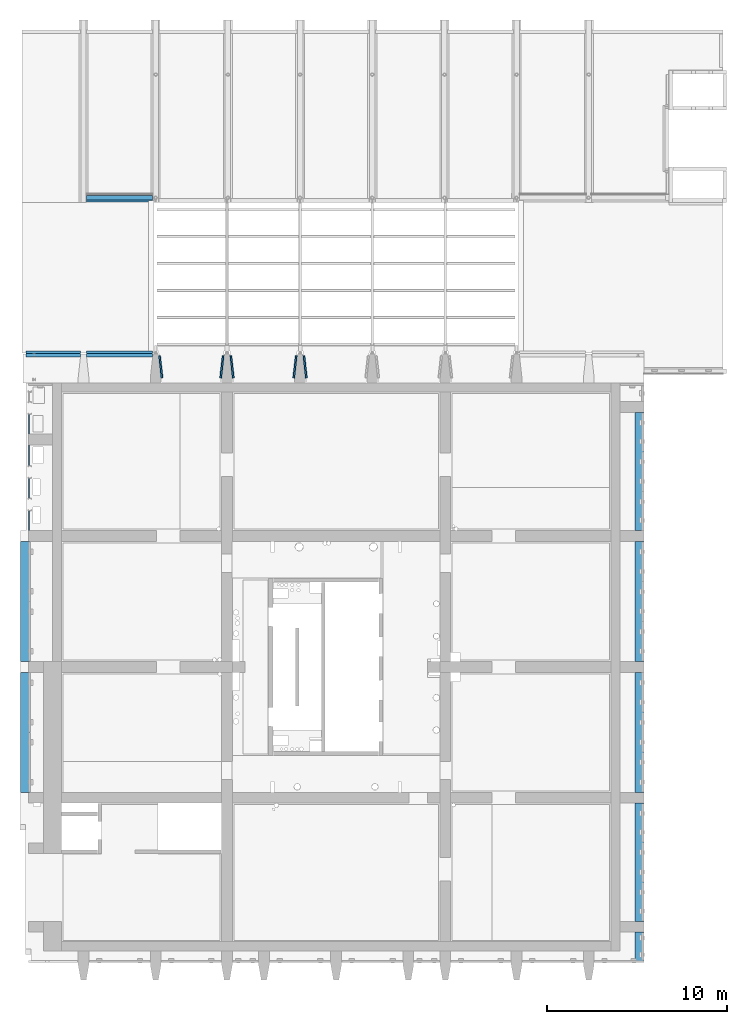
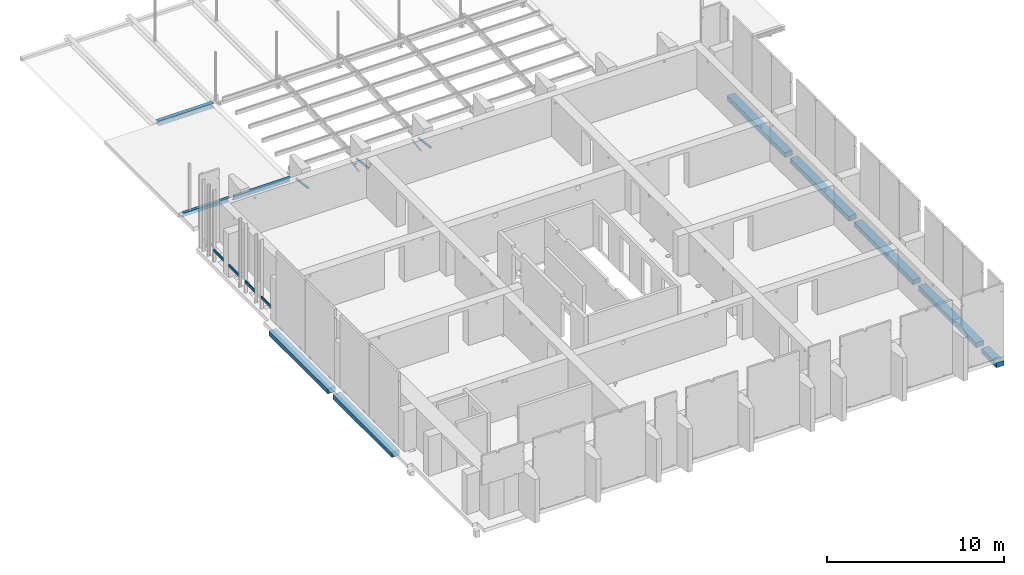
# One storey, part 12 of 31: 14 beams.
"""IFC2X3 building model written with IfcOpenShell, lengths in millimetres."""

from ifc_helpers import new_model, entity, si_unit, converted_unit, derived_unit, direction, frame, frame_2d, origin, origin_2d_with_axis, place, context, subcontext, project, spatial, polyline, circle_curve, parameter, trimmed, segment, composite_curve, rectangle, outline, extrude, source, transform, mapped, material, type_object, type_shapes, element, save


model = new_model("IFC2X3")

# Units and contexts
model_context = context("Model", 3, precision=0.01, world=origin(), true_north=direction((6.12303176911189e-17, 1.0)))
body_context = subcontext(model_context, "Body", "Model", "MODEL_VIEW")
ifc_project = project(units=[si_unit("LENGTHUNIT", "METRE", prefix="MILLI"), si_unit("AREAUNIT", "SQUARE_METRE"), si_unit("VOLUMEUNIT", "CUBIC_METRE"), converted_unit("PLANEANGLEUNIT", "DEGREE", entity("IfcRatioMeasure", 0.0174532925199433), si_unit("PLANEANGLEUNIT", "RADIAN"), dimensions=[0, 0, 0, 0, 0, 0, 0]), si_unit("MASSUNIT", "GRAM", prefix="KILO"), derived_unit("MASSDENSITYUNIT", [(si_unit("MASSUNIT", "GRAM", prefix="KILO"), 1), (si_unit("LENGTHUNIT", "METRE"), -3)]), si_unit("TIMEUNIT", "SECOND"), si_unit("FREQUENCYUNIT", "HERTZ"), si_unit("THERMODYNAMICTEMPERATUREUNIT", "DEGREE_CELSIUS"), derived_unit("THERMALTRANSMITTANCEUNIT", [(si_unit("MASSUNIT", "GRAM", prefix="KILO"), 1), (si_unit("THERMODYNAMICTEMPERATUREUNIT", "KELVIN"), -1), (si_unit("TIMEUNIT", "SECOND"), -3)]), derived_unit("VOLUMETRICFLOWRATEUNIT", [(si_unit("LENGTHUNIT", "METRE"), 3), (si_unit("TIMEUNIT", "SECOND"), -1)]), si_unit("ELECTRICCURRENTUNIT", "AMPERE"), si_unit("ELECTRICVOLTAGEUNIT", "VOLT"), si_unit("POWERUNIT", "WATT"), si_unit("FORCEUNIT", "NEWTON", prefix="KILO"), si_unit("ILLUMINANCEUNIT", "LUX"), si_unit("LUMINOUSFLUXUNIT", "LUMEN"), si_unit("LUMINOUSINTENSITYUNIT", "CANDELA"), derived_unit("USERDEFINED", [(si_unit("MASSUNIT", "GRAM", prefix="KILO"), -1), (si_unit("LENGTHUNIT", "METRE"), -2), (si_unit("TIMEUNIT", "SECOND"), 3), (si_unit("LUMINOUSFLUXUNIT", "LUMEN"), 1)]), derived_unit("LINEARVELOCITYUNIT", [(si_unit("LENGTHUNIT", "METRE"), 1), (si_unit("TIMEUNIT", "SECOND"), -1)]), si_unit("PRESSUREUNIT", "PASCAL"), derived_unit("USERDEFINED", [(si_unit("LENGTHUNIT", "METRE"), -2), (si_unit("MASSUNIT", "GRAM", prefix="KILO"), 1), (si_unit("TIMEUNIT", "SECOND"), -2)])], contexts=[model_context])

# Site, building, storey
site_placement = place(None, origin())
site = spatial("IfcSite", under=ifc_project, at=site_placement, Name="Default", CompositionType="ELEMENT")
building_placement = place(site_placement, origin())
building = spatial("IfcBuilding", under=site, at=building_placement, Name="niet gebruiken", CompositionType="ELEMENT")
storey_placement = place(building_placement, frame((0.0, 0.0, 12000.0)))
storey = spatial("IfcBuildingStorey", under=building, at=storey_placement, Name="03 derde verdieping", CompositionType="ELEMENT", Elevation=12000.0)

# Beams
ifc_material_1 = material(Name="NLRS_f2_beton ihwg")
beam_type_1 = type_object("IfcBeamType", Name="500x600", PredefinedType="BEAM", material=ifc_material_1)
shared_shape_1 = source(origin(), body_context, "Body", "SweptSolid", [
    extrude(rectangle(XDim=6549.99999999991, YDim=500.000000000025, at=frame_2d((-2.27373675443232e-12, 0.0), x_axis=(1.0, 0.0))), frame((158550.0, 28325.0, 11310.0), z_axis=(0.0, 0.0, 1.0), x_axis=(0.0, -1.0, 0.0)), (0.0, 0.0, 1.0), 329.999999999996),
    extrude(rectangle(XDim=1685.9999999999, YDim=500.000000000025, at=frame_2d((1.08002495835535e-12, 0.0), x_axis=(1.0, 0.0))), frame((158550.0, 1957.0, 11310.0), z_axis=(0.0, 0.0, 1.0), x_axis=(0.0, 1.0, 0.0)), (0.0, 0.0, 1.0), 329.999999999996),
    extrude(rectangle(XDim=6550.00000000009, YDim=500.000000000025, at=frame_2d((9.09494701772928e-13, 0.0), x_axis=(1.0, 0.0))), frame((158550.0, 6675.0, 11310.0), z_axis=(0.0, 0.0, 1.0), x_axis=(0.0, 1.0, 0.0)), (0.0, 0.0, 1.0), 329.999999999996),
    extrude(rectangle(XDim=6650.0, YDim=500.000000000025, at=frame_2d((1.13686837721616e-12, 0.0), x_axis=(1.0, 0.0))), frame((158550.0, 13875.0, 11310.0), z_axis=(0.0, 0.0, 1.0), x_axis=(0.0, 1.0, 0.0)), (0.0, 0.0, 1.0), 329.999999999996),
    extrude(rectangle(XDim=6649.99999999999, YDim=500.000000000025, at=frame_2d((-1.13686837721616e-12, 0.0), x_axis=(1.0, 0.0))), frame((158550.0, 21125.0, 11310.0), z_axis=(0.0, 0.0, 1.0), x_axis=(0.0, 1.0, 0.0)), (0.0, 0.0, 1.0), 329.999999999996),
])
type_shapes(beam_type_1, [shared_shape_1])
beam_1_placement = place(storey_placement, frame((0.0, 0.0, -12000.0)))
element("IfcBeam", 1, at=beam_1_placement, inside=storey, type_object=beam_type_1, material=ifc_material_1, Name="NLRS_28.11_SF_WPB_betonbalk ihwg recht_gen:500x600", ObjectType="500x600", context=body_context, shape_type="MappedRepresentation", body=[
    mapped(shared_shape_1, transform((0.0, 0.0, 0.0), scale=1.0)),
])
beam_type_2 = type_object("IfcBeamType", Name="500x600", PredefinedType="BEAM", material=ifc_material_1)
shared_shape_2 = source(origin(), body_context, "Body", "SweptSolid", [
    extrude(rectangle(XDim=6650.00000000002, YDim=500.000000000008, at=frame_2d((-2.27373675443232e-12, 0.0), x_axis=(1.0, 0.0))), frame((124500.0, 21125.0, 11310.0), z_axis=(0.0, 0.0, 1.0), x_axis=(0.0, -1.0, 0.0)), (0.0, 0.0, 1.0), 329.999999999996),
    extrude(rectangle(XDim=6650.0, YDim=499.99999999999, at=origin_2d_with_axis()), frame((124500.0, 13875.0, 11310.0), z_axis=(0.0, 0.0, 1.0), x_axis=(0.0, -1.0, 0.0)), (0.0, 0.0, 1.0), 329.999999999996),
])
type_shapes(beam_type_2, [shared_shape_2])
beam_2_placement = place(storey_placement, frame((0.0, 0.0, -12000.0)))
element("IfcBeam", 2, at=beam_2_placement, inside=storey, type_object=beam_type_2, material=ifc_material_1, Name="NLRS_28.11_SF_WPB_betonbalk ihwg recht_gen:500x600", ObjectType="500x600", context=body_context, shape_type="MappedRepresentation", body=[
    mapped(shared_shape_2, transform((0.0, 0.0, 0.0), scale=1.0)),
])
ifc_material_2 = material(Name="NLRS_h2_staal")
beam_type_3 = type_object("IfcBeamType", Name="ligger SFB250 HE260A+450x12", PredefinedType="BEAM", material=ifc_material_2)
shared_shape_3 = source(origin(), body_context, "Body", "SweptSolid", [
    extrude(outline(composite_curve([segment(polyline([(112.5, -130.0), (125.0, -130.0)]), True, "CONTINUOUS"), segment(polyline([(125.0, -130.0), (125.0, 130.0)]), True, "CONTINUOUS"), segment(polyline([(125.0, 130.0), (112.5, 130.0)]), True, "CONTINUOUS"), segment(polyline([(112.5, 130.0), (112.5, 27.7500000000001)]), True, "CONTINUOUS"), segment(trimmed(circle_curve(frame_2d((88.4999999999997, 27.75), x_axis=(0.0, -1.0)), 24.0), [parameter(3.05333249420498e-13)], [parameter(90.0000000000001)], True, "PARAMETER"), False, "CONTINUOUS"), segment(polyline([(88.4999999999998, 3.75000000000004), (-88.5000000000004, 3.75000000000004)]), True, "CONTINUOUS"), segment(trimmed(circle_curve(frame_2d((-88.5000000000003, 27.75), x_axis=(-1.0, 0.0)), 24.0), [parameter(3.56222124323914e-13)], [parameter(90.0000000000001)], True, "PARAMETER"), False, "CONTINUOUS"), segment(polyline([(-112.5, 27.7500000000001), (-112.5, 130.0)]), True, "CONTINUOUS"), segment(polyline([(-112.5, 130.0), (-125.0, 130.0)]), True, "CONTINUOUS"), segment(polyline([(-125.0, 130.0), (-125.0, -130.0)]), True, "CONTINUOUS"), segment(polyline([(-125.0, -130.0), (-112.5, -130.0)]), True, "CONTINUOUS"), segment(polyline([(-112.5, -130.0), (-112.5, -27.7499999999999)]), True, "CONTINUOUS"), segment(trimmed(circle_curve(frame_2d((-88.5000000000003, -27.7499999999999), x_axis=(0.0, 1.0)), 24.0), [parameter(0.0)], [parameter(90.0000000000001)], True, "PARAMETER"), False, "CONTINUOUS"), segment(polyline([(-88.5000000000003, -3.7499999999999), (88.4999999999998, -3.7499999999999)]), True, "CONTINUOUS"), segment(trimmed(circle_curve(frame_2d((88.4999999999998, -27.7499999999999), x_axis=(1.0, 0.0)), 24.0), [parameter(0.0)], [parameter(90.0000000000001)], True, "PARAMETER"), False, "CONTINUOUS"), segment(polyline([(112.5, -27.7499999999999), (112.5, -130.0)]), True, "CONTINUOUS")], self_intersect=False)), frame((-1830.0, 0.0, 0.0), z_axis=(1.0, 0.0, 0.0), x_axis=(0.0, 0.0, 1.0)), (0.0, 0.0, 1.0), 3660.00000000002),
    extrude(rectangle(XDim=3660.00000000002, YDim=450.0, at=origin_2d_with_axis()), frame((0.0, 0.0, -137.0)), (0.0, 0.0, 1.0), 12.0),
])
type_shapes(beam_type_3, [shared_shape_3])
beam_3_placement = place(storey_placement, frame((129750.0, 43500.0, 1205.0), z_axis=(0.0, 0.0, 1.0), x_axis=(-1.0, 0.0, 0.0)))
element("IfcBeam", 3, at=beam_3_placement, inside=storey, type_object=beam_type_3, material=ifc_material_2, Name="NLRS_28.11_SF_WPB_stalen ligger SFB_gen:ligger SFB250 HE260A+450x12", ObjectType="ligger SFB250 HE260A+450x12", context=body_context, shape_type="MappedRepresentation", body=[
    mapped(shared_shape_3, transform((0.0, 0.0, 0.0), scale=1.0)),
])
beam_type_4 = type_object("IfcBeamType", Name="NLRS_28.11_SF_WPB_stalen ligger Z-profiel_gen_BSc:ligger Z-profiel 200/15x355/15x150/15", PredefinedType="BEAM")
beam_4_placement = place(storey_placement, frame((127580.0, 34857.5, 1257.5), z_axis=(0.0, 0.0, 1.0), x_axis=(-1.0, 0.0, 0.0)))
element("IfcBeam", 4, at=beam_4_placement, inside=storey, type_object=beam_type_4, material=ifc_material_2, Name="NLRS_28.11_SF_WPB_stalen ligger Z-profiel_gen_BSc:ligger Z-profiel 200/15x355/15x150/15", ObjectType="NLRS_28.11_SF_WPB_stalen ligger Z-profiel_gen_BSc:ligger Z-profiel 200/15x355/15x150/15", context=body_context, shape_type="SweptSolid", body=[
    extrude(outline(polyline([(177.500000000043, -155.0), (192.500000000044, -155.0), (192.500000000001, -5.0), (-177.500000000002, -5.0), (-177.500000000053, 180.0), (-192.500000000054, 180.0), (-192.499999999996, -20.0), (177.500000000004, -20.0), (177.500000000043, -155.0)])), frame((0.0, 12.5000000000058, 0.0), z_axis=(1.0, 0.0, 0.0), x_axis=(0.0, 0.0, -1.0)), (0.0, 0.0, 1.0), 3010.00000000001),
])
beam_5_placement = place(storey_placement, frame((131580.0, 34857.5, 1257.5), z_axis=(0.0, 0.0, 1.0), x_axis=(-1.0, 0.0, 0.0)))
element("IfcBeam", 5, at=beam_5_placement, inside=storey, type_object=beam_type_4, material=ifc_material_2, Name="NLRS_28.11_SF_WPB_stalen ligger Z-profiel_gen_BSc:ligger Z-profiel 200/15x355/15x150/15", ObjectType="NLRS_28.11_SF_WPB_stalen ligger Z-profiel_gen_BSc:ligger Z-profiel 200/15x355/15x150/15", context=body_context, shape_type="SweptSolid", body=[
    extrude(outline(polyline([(177.500000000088, -155.0), (192.500000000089, -155.0), (192.500000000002, -5.0), (-177.5, -5.0), (-177.500000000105, 180.0), (-192.500000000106, 180.0), (-192.49999999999, -20.0), (177.50000000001, -20.0), (177.500000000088, -155.0)])), frame((0.0, 12.5000000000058, 0.0), z_axis=(1.0, 0.0, 0.0), x_axis=(0.0, 0.0, -1.0)), (0.0, 0.0, 1.0), 3659.99999999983),
])
beam_type_5 = type_object("IfcBeamType", Name="NLRS_28.11_SF_WPB_stalen ligger hoekprofiel gelijkzijdig_gen:ligger gelijzijdig hoekprofiel LEQU_100x100x10", PredefinedType="BEAM")
beam_6_placement = place(storey_placement, frame((135962.087998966, 34746.7465231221, 1270.0), z_axis=(0.0, 0.0, 1.0), x_axis=(0.110431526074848, -0.993883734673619, 0.0)))
element("IfcBeam", 6, at=beam_6_placement, inside=storey, type_object=beam_type_5, material=ifc_material_2, Name="NLRS_28.11_SF_WPB_stalen ligger hoekprofiel gelijkzijdig_gen:ligger gelijzijdig hoekprofiel LEQU_100x100x10", ObjectType="NLRS_28.11_SF_WPB_stalen ligger hoekprofiel gelijkzijdig_gen:ligger gelijzijdig hoekprofiel LEQU_100x100x10", context=body_context, shape_type="SweptSolid", body=[
    extrude(outline(composite_curve([segment(polyline([(-37.7777777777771, -37.7777777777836), (62.222222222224, -37.7777777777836)]), True, "CONTINUOUS"), segment(polyline([(62.2222222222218, -37.7777777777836), (62.2222222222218, -33.7777777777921)]), True, "CONTINUOUS"), segment(trimmed(circle_curve(frame_2d((56.2222222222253, -33.7777777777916), x_axis=(1.0, 0.0)), 5.99999999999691), [parameter(0.0)], [parameter(90.0000000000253)], True, "PARAMETER"), True, "CONTINUOUS"), segment(polyline([(56.2222222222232, -27.7777777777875), (-15.7777777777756, -27.7777777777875)]), True, "CONTINUOUS"), segment(trimmed(circle_curve(frame_2d((-15.7777777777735, -15.7777777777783), x_axis=(0.0, -1.0)), 12.000000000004), [parameter(270.000000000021)], [parameter(0.0)], True, "PARAMETER"), False, "CONTINUOUS"), segment(polyline([(-27.7777777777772, -15.7777777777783), (-27.7777777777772, 56.2222222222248)]), True, "CONTINUOUS"), segment(trimmed(circle_curve(frame_2d((-33.7777777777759, 56.2222222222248), x_axis=(1.0, 0.0)), 5.99999999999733), [parameter(0.0)], [parameter(90.0000000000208)], True, "PARAMETER"), True, "CONTINUOUS"), segment(polyline([(-33.777777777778, 62.2222222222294), (-37.7777777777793, 62.2222222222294)]), True, "CONTINUOUS"), segment(polyline([(-37.7777777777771, 62.2222222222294), (-37.7777777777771, -37.7777777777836)]), True, "CONTINUOUS")], self_intersect=False)), frame((0.0, -62.2222222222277, -37.7777777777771), z_axis=(1.0, 0.0, 0.0), x_axis=(0.0, 0.0, -1.0)), (0.0, 0.0, 1.0), 1235.00000000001),
])
beam_7_placement = place(storey_placement, frame((139487.912001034, 34746.7465231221, 1270.0), z_axis=(0.0, 0.0, 1.0), x_axis=(-0.110431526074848, -0.993883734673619, 0.0)))
element("IfcBeam", 7, at=beam_7_placement, inside=storey, type_object=beam_type_5, material=ifc_material_2, Name="NLRS_28.11_SF_WPB_stalen ligger hoekprofiel gelijkzijdig_gen:ligger gelijzijdig hoekprofiel LEQU_100x100x10", ObjectType="NLRS_28.11_SF_WPB_stalen ligger hoekprofiel gelijkzijdig_gen:ligger gelijzijdig hoekprofiel LEQU_100x100x10", context=body_context, shape_type="SweptSolid", body=[
    extrude(outline(composite_curve([segment(polyline([(-37.7777777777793, -62.222222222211), (-33.777777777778, -62.222222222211)]), True, "CONTINUOUS"), segment(trimmed(circle_curve(frame_2d((-33.7777777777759, -56.2222222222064), x_axis=(0.0, -1.0)), 5.99999999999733), [parameter(0.0)], [parameter(90.0000000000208)], True, "PARAMETER"), True, "CONTINUOUS"), segment(polyline([(-27.7777777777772, -56.2222222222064), (-27.7777777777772, 15.7777777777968)]), True, "CONTINUOUS"), segment(trimmed(circle_curve(frame_2d((-15.7777777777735, 15.7777777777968), x_axis=(-1.0, 0.0)), 12.000000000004), [parameter(270.000000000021)], [parameter(0.0)], True, "PARAMETER"), False, "CONTINUOUS"), segment(polyline([(-15.7777777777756, 27.7777777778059), (56.2222222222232, 27.7777777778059)]), True, "CONTINUOUS"), segment(trimmed(circle_curve(frame_2d((56.2222222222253, 33.7777777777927), x_axis=(0.0, -1.0)), 5.99999999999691), [parameter(0.0)], [parameter(90.0000000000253)], True, "PARAMETER"), True, "CONTINUOUS"), segment(polyline([(62.2222222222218, 33.7777777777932), (62.2222222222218, 37.777777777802)]), True, "CONTINUOUS"), segment(polyline([(62.222222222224, 37.777777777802), (-37.7777777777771, 37.777777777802)]), True, "CONTINUOUS"), segment(polyline([(-37.7777777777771, 37.777777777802), (-37.7777777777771, -62.222222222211)]), True, "CONTINUOUS")], self_intersect=False)), frame((0.0, 62.2222222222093, -37.7777777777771), z_axis=(1.0, 0.0, 0.0), x_axis=(0.0, 0.0, -1.0)), (0.0, 0.0, 1.0), 1235.00000000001),
])
beam_8_placement = place(storey_placement, frame((132012.087998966, 34746.7465231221, 1270.0), z_axis=(0.0, 0.0, 1.0), x_axis=(0.110431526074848, -0.993883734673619, 0.0)))
element("IfcBeam", 8, at=beam_8_placement, inside=storey, type_object=beam_type_5, material=ifc_material_2, Name="NLRS_28.11_SF_WPB_stalen ligger hoekprofiel gelijkzijdig_gen:ligger gelijzijdig hoekprofiel LEQU_100x100x10", ObjectType="NLRS_28.11_SF_WPB_stalen ligger hoekprofiel gelijkzijdig_gen:ligger gelijzijdig hoekprofiel LEQU_100x100x10", context=body_context, shape_type="SweptSolid", body=[
    extrude(outline(composite_curve([segment(polyline([(-37.7777777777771, -37.7777777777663), (62.222222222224, -37.7777777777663)]), True, "CONTINUOUS"), segment(polyline([(62.2222222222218, -37.7777777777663), (62.2222222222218, -33.7777777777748)]), True, "CONTINUOUS"), segment(trimmed(circle_curve(frame_2d((56.2222222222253, -33.7777777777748), x_axis=(1.0, 0.0)), 5.99999999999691), [parameter(0.0)], [parameter(90.0000000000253)], True, "PARAMETER"), True, "CONTINUOUS"), segment(polyline([(56.2222222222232, -27.7777777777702), (-15.7777777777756, -27.7777777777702)]), True, "CONTINUOUS"), segment(trimmed(circle_curve(frame_2d((-15.7777777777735, -15.7777777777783), x_axis=(0.0, -1.0)), 12.000000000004), [parameter(270.000000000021)], [parameter(0.0)], True, "PARAMETER"), False, "CONTINUOUS"), segment(polyline([(-27.7777777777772, -15.7777777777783), (-27.7777777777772, 56.2222222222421)]), True, "CONTINUOUS"), segment(trimmed(circle_curve(frame_2d((-33.7777777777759, 56.2222222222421), x_axis=(1.0, 0.0)), 5.99999999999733), [parameter(0.0)], [parameter(90.0000000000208)], True, "PARAMETER"), True, "CONTINUOUS"), segment(polyline([(-33.777777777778, 62.2222222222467), (-37.7777777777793, 62.2222222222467)]), True, "CONTINUOUS"), segment(polyline([(-37.7777777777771, 62.2222222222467), (-37.7777777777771, -37.7777777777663)]), True, "CONTINUOUS")], self_intersect=False)), frame((0.0, -62.2222222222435, -37.7777777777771), z_axis=(1.0, 0.0, 0.0), x_axis=(0.0, 0.0, -1.0)), (0.0, 0.0, 1.0), 1235.0),
])
beam_9_placement = place(storey_placement, frame((140012.087998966, 34746.746523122, 1270.0), z_axis=(0.0, 0.0, 1.0), x_axis=(0.110431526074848, -0.993883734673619, 0.0)))
element("IfcBeam", 9, at=beam_9_placement, inside=storey, type_object=beam_type_5, material=ifc_material_2, Name="NLRS_28.11_SF_WPB_stalen ligger hoekprofiel gelijkzijdig_gen:ligger gelijzijdig hoekprofiel LEQU_100x100x10", ObjectType="NLRS_28.11_SF_WPB_stalen ligger hoekprofiel gelijkzijdig_gen:ligger gelijzijdig hoekprofiel LEQU_100x100x10", context=body_context, shape_type="SweptSolid", body=[
    extrude(outline(composite_curve([segment(polyline([(-37.7777777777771, -37.7777777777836), (62.222222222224, -37.7777777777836)]), True, "CONTINUOUS"), segment(polyline([(62.2222222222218, -37.7777777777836), (62.2222222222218, -33.7777777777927)]), True, "CONTINUOUS"), segment(trimmed(circle_curve(frame_2d((56.2222222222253, -33.7777777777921), x_axis=(1.0, 0.0)), 5.99999999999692), [parameter(0.0)], [parameter(90.0000000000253)], True, "PARAMETER"), True, "CONTINUOUS"), segment(polyline([(56.2222222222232, -27.7777777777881), (-15.7777777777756, -27.7777777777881)]), True, "CONTINUOUS"), segment(trimmed(circle_curve(frame_2d((-15.7777777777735, -15.7777777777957), x_axis=(0.0, -1.0)), 12.000000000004), [parameter(270.000000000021)], [parameter(0.0)], True, "PARAMETER"), False, "CONTINUOUS"), segment(polyline([(-27.7777777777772, -15.7777777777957), (-27.7777777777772, 56.2222222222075)]), True, "CONTINUOUS"), segment(trimmed(circle_curve(frame_2d((-33.7777777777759, 56.2222222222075), x_axis=(1.0, 0.0)), 5.99999999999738), [parameter(0.0)], [parameter(90.0000000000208)], True, "PARAMETER"), True, "CONTINUOUS"), segment(polyline([(-33.777777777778, 62.2222222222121), (-37.7777777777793, 62.2222222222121)]), True, "CONTINUOUS"), segment(polyline([(-37.7777777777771, 62.2222222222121), (-37.7777777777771, -37.7777777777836)]), True, "CONTINUOUS")], self_intersect=False)), frame((0.0, -62.2222222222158, -37.7777777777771), z_axis=(1.0, 0.0, 0.0), x_axis=(0.0, 0.0, -1.0)), (0.0, 0.0, 1.0), 1235.0),
])
beam_10_placement = place(storey_placement, frame((135437.912001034, 34746.7465231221, 1270.0), z_axis=(0.0, 0.0, 1.0), x_axis=(-0.110431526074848, -0.993883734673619, 0.0)))
element("IfcBeam", 10, at=beam_10_placement, inside=storey, type_object=beam_type_5, material=ifc_material_2, Name="NLRS_28.11_SF_WPB_stalen ligger hoekprofiel gelijkzijdig_gen:ligger gelijzijdig hoekprofiel LEQU_100x100x10", ObjectType="NLRS_28.11_SF_WPB_stalen ligger hoekprofiel gelijkzijdig_gen:ligger gelijzijdig hoekprofiel LEQU_100x100x10", context=body_context, shape_type="SweptSolid", body=[
    extrude(outline(composite_curve([segment(polyline([(-37.7777777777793, -62.222222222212), (-33.777777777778, -62.222222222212)]), True, "CONTINUOUS"), segment(trimmed(circle_curve(frame_2d((-33.7777777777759, -56.2222222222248), x_axis=(0.0, -1.0)), 5.99999999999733), [parameter(0.0)], [parameter(90.0000000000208)], True, "PARAMETER"), True, "CONTINUOUS"), segment(polyline([(-27.7777777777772, -56.2222222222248), (-27.7777777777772, 15.7777777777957)]), True, "CONTINUOUS"), segment(trimmed(circle_curve(frame_2d((-15.7777777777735, 15.7777777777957), x_axis=(-1.0, 0.0)), 12.000000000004), [parameter(270.000000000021)], [parameter(0.0)], True, "PARAMETER"), False, "CONTINUOUS"), segment(polyline([(-15.7777777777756, 27.7777777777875), (56.2222222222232, 27.7777777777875)]), True, "CONTINUOUS"), segment(trimmed(circle_curve(frame_2d((56.2222222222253, 33.7777777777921), x_axis=(0.0, -1.0)), 5.99999999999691), [parameter(0.0)], [parameter(90.0000000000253)], True, "PARAMETER"), True, "CONTINUOUS"), segment(polyline([(62.2222222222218, 33.7777777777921), (62.2222222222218, 37.7777777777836)]), True, "CONTINUOUS"), segment(polyline([(62.222222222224, 37.7777777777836), (-37.7777777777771, 37.7777777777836)]), True, "CONTINUOUS"), segment(polyline([(-37.7777777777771, 37.7777777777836), (-37.7777777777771, -62.222222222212)]), True, "CONTINUOUS")], self_intersect=False)), frame((0.0, 62.2222222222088, -37.7777777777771), z_axis=(1.0, 0.0, 0.0), x_axis=(0.0, 0.0, -1.0)), (0.0, 0.0, 1.0), 1235.00000000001),
])
beam_type_6 = type_object("IfcBeamType", Name="NLRS_28.11_SF_WPB_stalen ligger UNP_gen:ligger UNP 180", PredefinedType="BEAM")
beam_11_placement = place(storey_placement, frame((124700.0, 26150.0, 840.0), z_axis=(0.0, 0.0, 1.0), x_axis=(0.0, -1.0, 0.0)))
element("IfcBeam", 11, at=beam_11_placement, inside=storey, type_object=beam_type_6, material=ifc_material_2, Name="NLRS_28.11_SF_WPB_stalen ligger UNP_gen:ligger UNP 180", ObjectType="NLRS_28.11_SF_WPB_stalen ligger UNP_gen:ligger UNP 180", context=body_context, shape_type="SweptSolid", body=[
    extrude(outline(composite_curve([segment(polyline([(-90.0623972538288, -38.5833333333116), (89.9376027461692, -38.5833333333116)]), True, "CONTINUOUS"), segment(polyline([(89.9376027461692, -38.5833333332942), (89.9376027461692, 31.4166666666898)]), True, "CONTINUOUS"), segment(polyline([(89.9376027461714, 31.4166666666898), (84.8052017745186, 31.4166666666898)]), True, "CONTINUOUS"), segment(trimmed(circle_curve(frame_2d((84.8052017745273, 25.9166666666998), x_axis=(0.0, 1.0)), 5.50000000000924), [parameter(0.0)], [parameter(89.9999999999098)], True, "PARAMETER"), True, "CONTINUOUS"), segment(polyline([(79.3052017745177, 25.9166666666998), (76.6504127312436, -19.5833333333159)]), True, "CONTINUOUS"), segment(trimmed(circle_curve(frame_2d((65.6504127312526, -19.5833333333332), x_axis=(1.0, 0.0)), 10.9999999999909), [parameter(269.999999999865)], [parameter(0.0)], True, "PARAMETER"), False, "CONTINUOUS"), segment(polyline([(65.6504127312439, -30.5833333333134), (-65.1358606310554, -30.5833333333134)]), True, "CONTINUOUS"), segment(trimmed(circle_curve(frame_2d((-65.1358606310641, -19.5833333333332), x_axis=(0.0, -1.0)), 10.9999999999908), [parameter(269.999999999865)], [parameter(0.0)], True, "PARAMETER"), False, "CONTINUOUS"), segment(polyline([(-76.1358606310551, -19.5833333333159), (-79.6949593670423, 25.9166666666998)]), True, "CONTINUOUS"), segment(trimmed(circle_curve(frame_2d((-85.1949593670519, 25.9166666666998), x_axis=(1.0, 0.0)), 5.50000000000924), [parameter(0.0)], [parameter(89.9999999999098)], True, "PARAMETER"), True, "CONTINUOUS"), segment(polyline([(-85.1949593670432, 31.4166666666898), (-90.062397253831, 31.4166666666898)]), True, "CONTINUOUS"), segment(polyline([(-90.0623972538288, 31.4166666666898), (-90.0623972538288, -38.5833333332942)]), True, "CONTINUOUS")], self_intersect=False)), frame((0.0, 38.5833333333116, -90.0623972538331), z_axis=(1.0, 0.0, 0.0), x_axis=(0.0, 0.0, -1.0)), (0.0, 0.0, 1.0), 1100.0000000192),
])
beam_12_placement = place(storey_placement, frame((124700.0, 27950.0, 840.0), z_axis=(0.0, 0.0, 1.0), x_axis=(0.0, -1.0, 0.0)))
element("IfcBeam", 12, at=beam_12_placement, inside=storey, type_object=beam_type_6, material=ifc_material_2, Name="NLRS_28.11_SF_WPB_stalen ligger UNP_gen:ligger UNP 180", ObjectType="NLRS_28.11_SF_WPB_stalen ligger UNP_gen:ligger UNP 180", context=body_context, shape_type="SweptSolid", body=[
    extrude(outline(composite_curve([segment(polyline([(-90.0623972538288, -38.5833333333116), (89.9376027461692, -38.5833333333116)]), True, "CONTINUOUS"), segment(polyline([(89.9376027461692, -38.5833333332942), (89.9376027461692, 31.4166666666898)]), True, "CONTINUOUS"), segment(polyline([(89.9376027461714, 31.4166666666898), (84.8052017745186, 31.4166666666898)]), True, "CONTINUOUS"), segment(trimmed(circle_curve(frame_2d((84.8052017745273, 25.9166666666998), x_axis=(0.0, 1.0)), 5.50000000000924), [parameter(0.0)], [parameter(89.9999999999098)], True, "PARAMETER"), True, "CONTINUOUS"), segment(polyline([(79.3052017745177, 25.9166666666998), (76.6504127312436, -19.5833333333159)]), True, "CONTINUOUS"), segment(trimmed(circle_curve(frame_2d((65.6504127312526, -19.5833333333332), x_axis=(1.0, 0.0)), 10.9999999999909), [parameter(269.999999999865)], [parameter(0.0)], True, "PARAMETER"), False, "CONTINUOUS"), segment(polyline([(65.6504127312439, -30.5833333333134), (-65.1358606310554, -30.5833333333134)]), True, "CONTINUOUS"), segment(trimmed(circle_curve(frame_2d((-65.1358606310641, -19.5833333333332), x_axis=(0.0, -1.0)), 10.9999999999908), [parameter(269.999999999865)], [parameter(0.0)], True, "PARAMETER"), False, "CONTINUOUS"), segment(polyline([(-76.1358606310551, -19.5833333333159), (-79.6949593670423, 25.9166666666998)]), True, "CONTINUOUS"), segment(trimmed(circle_curve(frame_2d((-85.1949593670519, 25.9166666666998), x_axis=(1.0, 0.0)), 5.50000000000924), [parameter(0.0)], [parameter(89.9999999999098)], True, "PARAMETER"), True, "CONTINUOUS"), segment(polyline([(-85.1949593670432, 31.4166666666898), (-90.062397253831, 31.4166666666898)]), True, "CONTINUOUS"), segment(polyline([(-90.0623972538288, 31.4166666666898), (-90.0623972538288, -38.5833333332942)]), True, "CONTINUOUS")], self_intersect=False)), frame((0.0, 38.5833333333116, -90.0623972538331), z_axis=(1.0, 0.0, 0.0), x_axis=(0.0, 0.0, -1.0)), (0.0, 0.0, 1.0), 1100.0000000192),
])
beam_13_placement = place(storey_placement, frame((124700.0, 29800.0, 840.0), z_axis=(0.0, 0.0, 1.0), x_axis=(0.0, -1.0, 0.0)))
element("IfcBeam", 13, at=beam_13_placement, inside=storey, type_object=beam_type_6, material=ifc_material_2, Name="NLRS_28.11_SF_WPB_stalen ligger UNP_gen:ligger UNP 180", ObjectType="NLRS_28.11_SF_WPB_stalen ligger UNP_gen:ligger UNP 180", context=body_context, shape_type="SweptSolid", body=[
    extrude(outline(composite_curve([segment(polyline([(-90.0623972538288, -38.5833333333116), (89.9376027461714, -38.5833333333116)]), True, "CONTINUOUS"), segment(polyline([(89.9376027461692, -38.5833333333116), (89.9376027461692, 31.4166666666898)]), True, "CONTINUOUS"), segment(polyline([(89.9376027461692, 31.4166666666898), (84.8052017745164, 31.4166666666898)]), True, "CONTINUOUS"), segment(trimmed(circle_curve(frame_2d((84.8052017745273, 25.9166666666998), x_axis=(0.0, 1.0)), 5.50000000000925), [parameter(0.0)], [parameter(89.9999999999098)], True, "PARAMETER"), True, "CONTINUOUS"), segment(polyline([(79.3052017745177, 25.9166666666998), (76.6504127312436, -19.5833333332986)]), True, "CONTINUOUS"), segment(trimmed(circle_curve(frame_2d((65.6504127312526, -19.5833333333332), x_axis=(1.0, 0.0)), 10.9999999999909), [parameter(269.999999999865)], [parameter(0.0)], True, "PARAMETER"), False, "CONTINUOUS"), segment(polyline([(65.6504127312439, -30.5833333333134), (-65.1358606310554, -30.5833333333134)]), True, "CONTINUOUS"), segment(trimmed(circle_curve(frame_2d((-65.1358606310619, -19.5833333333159), x_axis=(0.0, -1.0)), 10.9999999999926), [parameter(269.999999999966)], [parameter(0.0)], True, "PARAMETER"), False, "CONTINUOUS"), segment(polyline([(-76.1358606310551, -19.5833333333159), (-79.6949593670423, 25.9166666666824)]), True, "CONTINUOUS"), segment(trimmed(circle_curve(frame_2d((-85.1949593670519, 25.9166666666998), x_axis=(1.0, 0.0)), 5.50000000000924), [parameter(0.0)], [parameter(89.9999999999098)], True, "PARAMETER"), True, "CONTINUOUS"), segment(polyline([(-85.1949593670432, 31.4166666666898), (-90.062397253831, 31.4166666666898)]), True, "CONTINUOUS"), segment(polyline([(-90.0623972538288, 31.4166666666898), (-90.0623972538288, -38.5833333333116)]), True, "CONTINUOUS")], self_intersect=False)), frame((0.0, 38.5833333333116, -90.0623972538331), z_axis=(1.0, 0.0, 0.0), x_axis=(0.0, 0.0, -1.0)), (0.0, 0.0, 1.0), 1150.00000000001),
])
beam_14_placement = place(storey_placement, frame((124700.0, 31500.0, 840.0), z_axis=(0.0, 0.0, 1.0), x_axis=(0.0, -1.0, 0.0)))
element("IfcBeam", 14, at=beam_14_placement, inside=storey, type_object=beam_type_6, material=ifc_material_2, Name="NLRS_28.11_SF_WPB_stalen ligger UNP_gen:ligger UNP 180", ObjectType="NLRS_28.11_SF_WPB_stalen ligger UNP_gen:ligger UNP 180", context=body_context, shape_type="SweptSolid", body=[
    extrude(outline(composite_curve([segment(polyline([(-90.0623972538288, -38.5833333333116), (89.9376027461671, -38.5833333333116)]), True, "CONTINUOUS"), segment(polyline([(89.9376027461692, -38.5833333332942), (89.9376027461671, 31.4166666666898)]), True, "CONTINUOUS"), segment(polyline([(89.9376027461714, 31.4166666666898), (84.8052017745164, 31.4166666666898)]), True, "CONTINUOUS"), segment(trimmed(circle_curve(frame_2d((84.8052017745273, 25.9166666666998), x_axis=(0.0, 1.0)), 5.50000000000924), [parameter(0.0)], [parameter(89.9999999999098)], True, "PARAMETER"), True, "CONTINUOUS"), segment(polyline([(79.3052017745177, 25.9166666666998), (76.6504127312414, -19.5833333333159)]), True, "CONTINUOUS"), segment(trimmed(circle_curve(frame_2d((65.6504127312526, -19.5833333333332), x_axis=(1.0, 0.0)), 10.9999999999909), [parameter(269.999999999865)], [parameter(0.0)], True, "PARAMETER"), False, "CONTINUOUS"), segment(polyline([(65.6504127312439, -30.5833333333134), (-65.1358606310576, -30.5833333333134)]), True, "CONTINUOUS"), segment(trimmed(circle_curve(frame_2d((-65.1358606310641, -19.5833333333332), x_axis=(0.0, -1.0)), 10.9999999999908), [parameter(269.999999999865)], [parameter(0.0)], True, "PARAMETER"), False, "CONTINUOUS"), segment(polyline([(-76.1358606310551, -19.5833333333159), (-79.6949593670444, 25.9166666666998)]), True, "CONTINUOUS"), segment(trimmed(circle_curve(frame_2d((-85.1949593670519, 25.9166666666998), x_axis=(1.0, 0.0)), 5.50000000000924), [parameter(0.0)], [parameter(89.9999999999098)], True, "PARAMETER"), True, "CONTINUOUS"), segment(polyline([(-85.1949593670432, 31.4166666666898), (-90.0623972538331, 31.4166666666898)]), True, "CONTINUOUS"), segment(polyline([(-90.0623972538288, 31.4166666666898), (-90.062397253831, -38.5833333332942)]), True, "CONTINUOUS")], self_intersect=False)), frame((0.0, 38.5833333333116, -90.0623972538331), z_axis=(1.0, 0.0, 0.0), x_axis=(0.0, 0.0, -1.0)), (0.0, 0.0, 1.0), 1100.0000000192),
])

save(model, "model.ifc")
